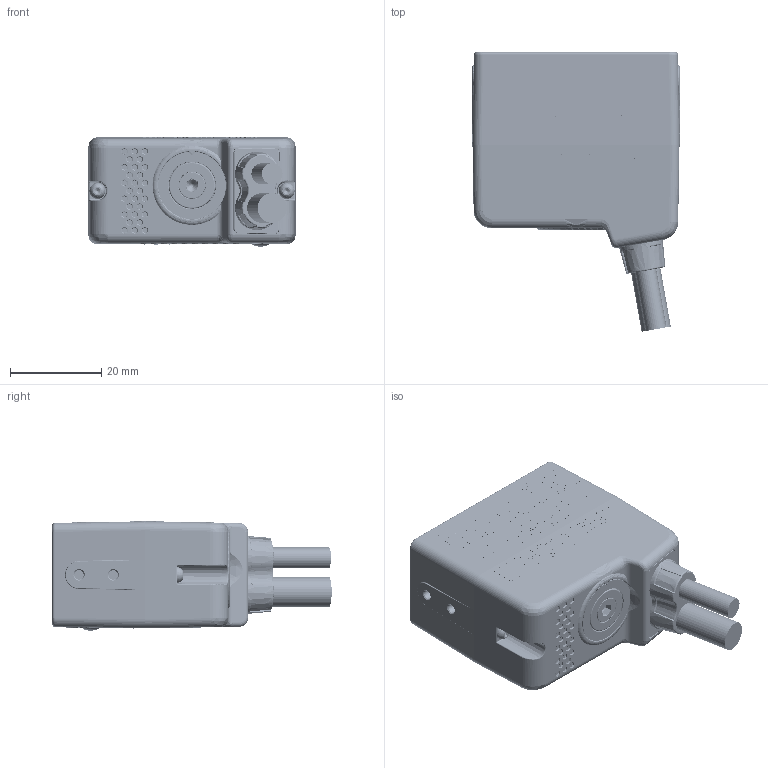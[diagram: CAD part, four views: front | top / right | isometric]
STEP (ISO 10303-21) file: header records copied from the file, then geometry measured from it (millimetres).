
FILE_DESCRIPTION(/* description */ (''),/* implementation_level */ '2;1');
FILE_NAME(/* name */ 'AS001797_01_STP_DSD-0742 (MATRIX 120 ETH).stp',/* time_stamp */ '2016-06-24T16:20:19+02:00',/* author */ (''),/* organization */ (''),/* preprocessor_version */ 'ST-DEVELOPER v16',/* originating_system */ 'SIEMENS PLM Software NX 10.0',/* authorisation */ '');
FILE_SCHEMA (('AP203_CONFIGURATION_CONTROLLED_3D_DESIGN_OF_MECHANICAL_PARTS_AND_ASSEMBLIES_MIM_LF { 1 0 10303 403 2 1 2}'));
Products named in the file (1): fgua253C0DBFa2yu
Bounding box: 45.4 x 61.24 x 24.01 mm (x, y, z)
Volume: 15863.3 mm3; surface area: 21347.7 mm2
Topology: 257 solids, 257 shells, 10001 faces, 23316 edges, 13609 vertices
Faces by surface type: plane 3287, cylinder 2953, bspline 1520, extrusion 984, sphere 884, torus 202, cone 171
Full cylindrical faces by diameter (mm): 1.1 x4, 1.6 x4, 1.95 x2, 2 x6, 2.05 x4, 2.5 x1, 3 x1, 3.2 x1, 3.5 x1, 4.4 x1, 4.5 x2, 4.6 x1, 5.4 x1, 5.9 x2, 6 x1, 6.3 x1, 6.5 x1, 7.3 x1, 10.5 x2
Entity records: 325397 total; most frequent: CARTESIAN_POINT 114240, ORIENTED_EDGE 45336, DIRECTION 40593, EDGE_CURVE 22668, AXIS2_PLACEMENT_3D 15382, VERTEX_POINT 13522, EDGE_LOOP 10520, ADVANCED_FACE 9998
